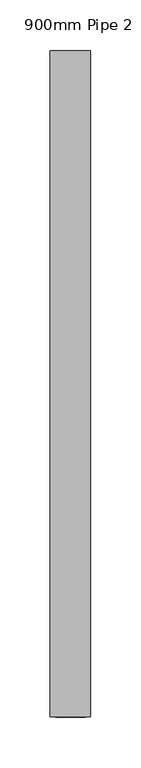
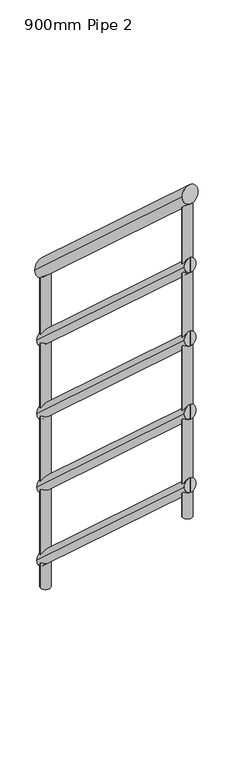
"""IFC4 building model written with IfcOpenShell, lengths in millimetres: railing geometry, 900mm Pipe 2."""

from ifc_helpers import new_model, si_unit, frame, origin, place, context, project, spatial, circle_curve, ellipse_curve, source, transform, mapped, element, save
from ifc_brep_helpers import plane_surface, cylinder_surface, advanced_brep


def railing_900mm_pipe_2_48e39727(model_context):
    return source(origin(), model_context, "Body", "AdvancedBrep", [
        advanced_brep(
        [(-4971.8266822, 6973.2328473, 272.9707841), (-5011.8266822, 6973.2328473, 272.9707841), (-4971.8266822, 6313.2328473, 872.9707841), (-5011.8266822, 6313.2328473, 872.9707841)],
        [
            (0, 1, ellipse_curve(frame((-4991.8266822, 6973.2328473, 272.9707841), z_axis=(0.0, 1.0, 0.0), x_axis=(0.0, 0.0, -1.0)), 27.0292159, 20.0)),
            (1, 0, ellipse_curve(frame((-4991.8266822, 6973.2328473, 272.9707841), z_axis=(0.0, 1.0, 0.0), x_axis=(0.0, 0.0, -1.0)), 27.0292159, 20.0)),
            (2, 3, ellipse_curve(frame((-4991.8266822, 6313.2328473, 872.9707841), z_axis=(0.0, -1.0, 0.0), x_axis=(0.0, 0.0, -1.0)), 27.0292159, 20.0)),
            (3, 2, ellipse_curve(frame((-4991.8266822, 6313.2328473, 872.9707841), z_axis=(0.0, -1.0, 0.0), x_axis=(0.0, 0.0, -1.0)), 27.0292159, 20.0)),
            (0, 2),
            (3, 1),
        ],
        [
            plane_surface(frame((-4991.8266822, 6973.2328473, 300.0), z_axis=(0.0, 1.0, 0.0), x_axis=(0.0, 0.0, -1.0))),
            plane_surface(frame((-4991.8266822, 6313.2328473, 900.0), z_axis=(0.0, -1.0, 0.0), x_axis=(0.0, 0.0, -1.0))),
            cylinder_surface(frame((-4991.8266822, 6959.7793914, 285.2011985), z_axis=(0.0, 0.7399400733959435, -0.6726727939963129), x_axis=(-1.0, 0.0, 0.0)), 20.0),
        ],
        [
            (0, [[1, 2]]),
            (1, [[3, 4]]),
            (2, [[-1, 5, -4, 6]]),
            (2, [[-2, -6, -3, -5]]),
        ],
    ),
        advanced_brep(
        [(-4976.8266822, 6973.2328473, 79.7280881), (-5006.8266822, 6973.2328473, 79.7280881), (-4976.8266822, 6313.2328473, 679.7280881), (-5006.8266822, 6313.2328473, 679.7280881)],
        [
            (0, 1, ellipse_curve(frame((-4991.8266822, 6973.2328473, 79.7280881), z_axis=(0.0, 1.0, 0.0), x_axis=(0.0, 0.0, -1.0)), 20.2719119, 15.0)),
            (1, 0, ellipse_curve(frame((-4991.8266822, 6973.2328473, 79.7280881), z_axis=(0.0, 1.0, 0.0), x_axis=(0.0, 0.0, -1.0)), 20.2719119, 15.0)),
            (2, 3, ellipse_curve(frame((-4991.8266822, 6313.2328473, 679.7280881), z_axis=(0.0, -1.0, 0.0), x_axis=(0.0, 0.0, -1.0)), 20.2719119, 15.0)),
            (3, 2, ellipse_curve(frame((-4991.8266822, 6313.2328473, 679.7280881), z_axis=(0.0, -1.0, 0.0), x_axis=(0.0, 0.0, -1.0)), 20.2719119, 15.0)),
            (0, 2),
            (3, 1),
        ],
        [
            plane_surface(frame((-4991.8266822, 6973.2328473, 100.0), z_axis=(0.0, 1.0, 0.0), x_axis=(0.0, 0.0, -1.0))),
            plane_surface(frame((-4991.8266822, 6313.2328473, 700.0), z_axis=(0.0, -1.0, 0.0), x_axis=(0.0, 0.0, -1.0))),
            cylinder_surface(frame((-4991.8266822, 6963.1427553, 88.9008989), z_axis=(0.0, 0.7399400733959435, -0.6726727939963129), x_axis=(-1.0, 0.0, 0.0)), 15.0),
        ],
        [
            (0, [[1, 2]]),
            (1, [[3, 4]]),
            (2, [[-1, 5, -4, 6]]),
            (2, [[-2, -6, -3, -5]]),
        ],
    ),
        advanced_brep(
        [(-4976.8266822, 6973.2328473, -120.2719119), (-5006.8266822, 6973.2328473, -120.2719119), (-4976.8266822, 6313.2328473, 479.7280881), (-5006.8266822, 6313.2328473, 479.7280881)],
        [
            (0, 1, ellipse_curve(frame((-4991.8266822, 6973.2328473, -120.2719119), z_axis=(0.0, 1.0, 0.0), x_axis=(0.0, 0.0, -1.0)), 20.2719119, 15.0)),
            (1, 0, ellipse_curve(frame((-4991.8266822, 6973.2328473, -120.2719119), z_axis=(0.0, 1.0, 0.0), x_axis=(0.0, 0.0, -1.0)), 20.2719119, 15.0)),
            (2, 3, ellipse_curve(frame((-4991.8266822, 6313.2328473, 479.7280881), z_axis=(0.0, -1.0, 0.0), x_axis=(0.0, 0.0, -1.0)), 20.2719119, 15.0)),
            (3, 2, ellipse_curve(frame((-4991.8266822, 6313.2328473, 479.7280881), z_axis=(0.0, -1.0, 0.0), x_axis=(0.0, 0.0, -1.0)), 20.2719119, 15.0)),
            (0, 2),
            (3, 1),
        ],
        [
            plane_surface(frame((-4991.8266822, 6973.2328473, -100.0), z_axis=(0.0, 1.0, 0.0), x_axis=(0.0, 0.0, -1.0))),
            plane_surface(frame((-4991.8266822, 6313.2328473, 500.0), z_axis=(0.0, -1.0, 0.0), x_axis=(0.0, 0.0, -1.0))),
            cylinder_surface(frame((-4991.8266822, 6963.1427553, -111.0991011), z_axis=(0.0, 0.7399400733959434, -0.6726727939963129), x_axis=(-1.0, 0.0, 0.0)), 15.0),
        ],
        [
            (0, [[1, 2]]),
            (1, [[3, 4]]),
            (2, [[-1, 5, -4, 6]]),
            (2, [[-2, -6, -3, -5]]),
        ],
    ),
        advanced_brep(
        [(-4976.8266822, 6973.2328473, -320.2719119), (-5006.8266822, 6973.2328473, -320.2719119), (-4976.8266822, 6313.2328473, 279.7280881), (-5006.8266822, 6313.2328473, 279.7280881)],
        [
            (0, 1, ellipse_curve(frame((-4991.8266822, 6973.2328473, -320.2719119), z_axis=(0.0, 1.0, 0.0), x_axis=(0.0, 0.0, -1.0)), 20.2719119, 15.0)),
            (1, 0, ellipse_curve(frame((-4991.8266822, 6973.2328473, -320.2719119), z_axis=(0.0, 1.0, 0.0), x_axis=(0.0, 0.0, -1.0)), 20.2719119, 15.0)),
            (2, 3, ellipse_curve(frame((-4991.8266822, 6313.2328473, 279.7280881), z_axis=(0.0, -1.0, 0.0), x_axis=(0.0, 0.0, -1.0)), 20.2719119, 15.0)),
            (3, 2, ellipse_curve(frame((-4991.8266822, 6313.2328473, 279.7280881), z_axis=(0.0, -1.0, 0.0), x_axis=(0.0, 0.0, -1.0)), 20.2719119, 15.0)),
            (0, 2),
            (3, 1),
        ],
        [
            plane_surface(frame((-4991.8266822, 6973.2328473, -300.0), z_axis=(0.0, 1.0, 0.0), x_axis=(0.0, 0.0, -1.0))),
            plane_surface(frame((-4991.8266822, 6313.2328473, 300.0), z_axis=(0.0, -1.0, 0.0), x_axis=(0.0, 0.0, -1.0))),
            cylinder_surface(frame((-4991.8266822, 6963.1427553, -311.0991011), z_axis=(0.0, 0.7399400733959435, -0.6726727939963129), x_axis=(-1.0, 0.0, 0.0)), 15.0),
        ],
        [
            (0, [[1, 2]]),
            (1, [[3, 4]]),
            (2, [[-1, 5, -4, 6]]),
            (2, [[-2, -6, -3, -5]]),
        ],
    ),
        advanced_brep(
        [(-4976.8266822, 6973.2328473, -520.2719119), (-5006.8266822, 6973.2328473, -520.2719119), (-4976.8266822, 6313.2328473, 79.7280881), (-5006.8266822, 6313.2328473, 79.7280881)],
        [
            (0, 1, ellipse_curve(frame((-4991.8266822, 6973.2328473, -520.2719119), z_axis=(0.0, 1.0, 0.0), x_axis=(0.0, 0.0, -1.0)), 20.2719119, 15.0)),
            (1, 0, ellipse_curve(frame((-4991.8266822, 6973.2328473, -520.2719119), z_axis=(0.0, 1.0, 0.0), x_axis=(0.0, 0.0, -1.0)), 20.2719119, 15.0)),
            (2, 3, ellipse_curve(frame((-4991.8266822, 6313.2328473, 79.7280881), z_axis=(0.0, -1.0, 0.0), x_axis=(0.0, 0.0, -1.0)), 20.2719119, 15.0)),
            (3, 2, ellipse_curve(frame((-4991.8266822, 6313.2328473, 79.7280881), z_axis=(0.0, -1.0, 0.0), x_axis=(0.0, 0.0, -1.0)), 20.2719119, 15.0)),
            (0, 2),
            (3, 1),
        ],
        [
            plane_surface(frame((-4991.8266822, 6973.2328473, -500.0), z_axis=(0.0, 1.0, 0.0), x_axis=(0.0, 0.0, -1.0))),
            plane_surface(frame((-4991.8266822, 6313.2328473, 100.0), z_axis=(0.0, -1.0, 0.0), x_axis=(0.0, 0.0, -1.0))),
            cylinder_surface(frame((-4991.8266822, 6963.1427553, -511.0991011), z_axis=(0.0, 0.7399400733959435, -0.6726727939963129), x_axis=(-1.0, 0.0, 0.0)), 15.0),
        ],
        [
            (0, [[1, 2]]),
            (1, [[3, 4]]),
            (2, [[-1, 5, -4, 6]]),
            (2, [[-2, -6, -3, -5]]),
        ],
    ),
        advanced_brep(
        [(-5004.3266822, 6325.4194462, -11.0787263), (-4979.3266822, 6325.4194462, -11.0787263), (-4979.3266822, 6325.4194462, 834.8628419), (-5004.3266822, 6325.4194462, 834.8628419)],
        [
            (0, 1, circle_curve(frame((-4991.8266822, 6325.4194462, -11.0787263), z_axis=(0.0, 0.0, -1.0), x_axis=(1.0, 0.0, 0.0)), 12.5)),
            (1, 0, circle_curve(frame((-4991.8266822, 6325.4194462, -11.0787263), z_axis=(0.0, 0.0, -1.0), x_axis=(1.0, 0.0, 0.0)), 12.5)),
            (1, 2),
            (2, 3, ellipse_curve(frame((-4991.8266822, 6325.4194462, 834.8628419), z_axis=(0.0, -0.6726727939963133, -0.7399400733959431), x_axis=(0.0, -0.7399400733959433, 0.6726727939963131)), 16.8932599, 12.5)),
            (3, 0),
            (3, 2, ellipse_curve(frame((-4991.8266822, 6325.4194462, 834.8628419), z_axis=(0.0, -0.6726727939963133, -0.7399400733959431), x_axis=(0.0, -0.7399400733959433, 0.6726727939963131)), 16.8932599, 12.5)),
        ],
        [
            plane_surface(frame((-4979.3266822, 6325.4194462, -11.0787263), z_axis=(0.0, 0.0, -1.0), x_axis=(0.0, -1.0, 0.0))),
            cylinder_surface(frame((-4991.8266822, 6325.4194462, -11.0787263), z_axis=(0.0, 0.0, 1.0), x_axis=(1.0, 0.0, 0.0)), 12.5),
            plane_surface(frame((-4944.6008523, 6285.0592578, 871.5539222), z_axis=(0.0, 0.6726727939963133, 0.7399400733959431), x_axis=(-1.0, 0.0, 0.0))),
        ],
        [
            (0, [[1, 2]]),
            (1, [[-2, 3, 4, 5]]),
            (1, [[-1, -5, 6, -3]]),
            (2, [[-4, -6]]),
        ],
    ),
        advanced_brep(
        [(-5004.3266822, 6961.0462484, -588.9212737), (-4979.3266822, 6961.0462484, -588.9212737), (-4979.3266822, 6961.0462484, 257.0202945), (-5004.3266822, 6961.0462484, 257.0202945)],
        [
            (0, 1, circle_curve(frame((-4991.8266822, 6961.0462484, -588.9212737), z_axis=(0.0, 0.0, -1.0), x_axis=(1.0, 0.0, 0.0)), 12.5)),
            (1, 0, circle_curve(frame((-4991.8266822, 6961.0462484, -588.9212737), z_axis=(0.0, 0.0, -1.0), x_axis=(1.0, 0.0, 0.0)), 12.5)),
            (1, 2),
            (2, 3, ellipse_curve(frame((-4991.8266822, 6961.0462484, 257.0202945), z_axis=(0.0, -0.6726727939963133, -0.7399400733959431), x_axis=(0.0, -0.7399400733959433, 0.6726727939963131)), 16.8932599, 12.5)),
            (3, 0),
            (3, 2, ellipse_curve(frame((-4991.8266822, 6961.0462484, 257.0202945), z_axis=(0.0, -0.6726727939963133, -0.7399400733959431), x_axis=(0.0, -0.7399400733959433, 0.6726727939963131)), 16.8932599, 12.5)),
        ],
        [
            plane_surface(frame((-4979.3266822, 6961.0462484, -588.9212737), z_axis=(0.0, 0.0, -1.0), x_axis=(0.0, -1.0, 0.0))),
            cylinder_surface(frame((-4991.8266822, 6961.0462484, -588.9212737), z_axis=(0.0, 0.0, 1.0), x_axis=(1.0, 0.0, 0.0)), 12.5),
            plane_surface(frame((-4944.6008523, 6920.68606, 293.7113748), z_axis=(0.0, 0.6726727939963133, 0.7399400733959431), x_axis=(-1.0, 0.0, 0.0))),
        ],
        [
            (0, [[1, 2]]),
            (1, [[-2, 3, 4, 5]]),
            (1, [[-1, -5, 6, -3]]),
            (2, [[-4, -6]]),
        ],
    ),
    ])


if __name__ == "__main__":
    model = new_model("IFC4")
    model_context = context("Model", 3, world=origin())
    ifc_project = project(units=[si_unit("LENGTHUNIT", "METRE", prefix="MILLI")], contexts=[model_context])
    site = spatial("IfcSite", under=ifc_project)
    building = spatial("IfcBuilding", under=site)
    placement = place(None, origin())
    railing_900mm_pipe_2_shape = railing_900mm_pipe_2_48e39727(model_context)
    element("IfcRailing", 1, ObjectType="900mm Pipe 2", at=placement, inside=building, context=model_context, shape_type="MappedRepresentation", body=[
        mapped(railing_900mm_pipe_2_shape, transform((0.0, 0.0, 0.0), x_axis=(1.0, 0.0, 0.0), y_axis=(0.0, 1.0, 0.0), z_axis=(0.0, 0.0, 1.0))),
    ])
    save(model, "model.ifc")
